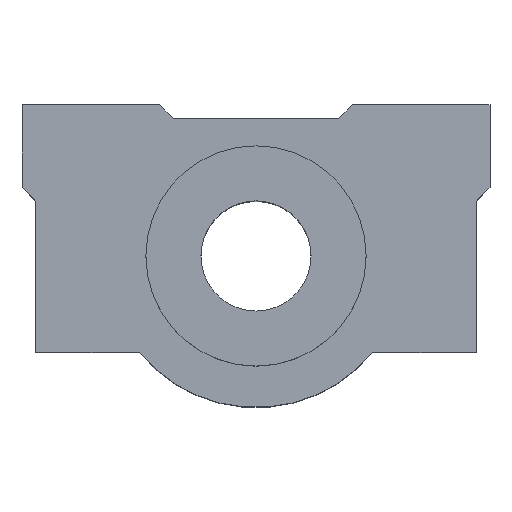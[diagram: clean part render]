
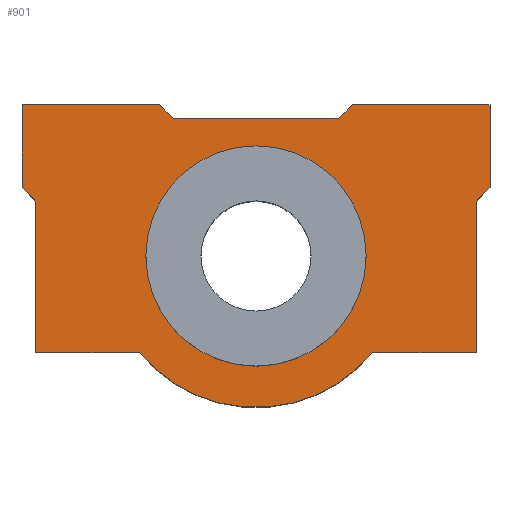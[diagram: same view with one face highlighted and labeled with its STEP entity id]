
A CAD part, top view. The second image highlights one B-rep face of the part: STEP entity #901.
In plain terms, the highlighted planar face has unit normal (0, 0, 1).
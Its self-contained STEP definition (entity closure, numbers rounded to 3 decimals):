
#133=CARTESIAN_POINT('',(-8.709,4.198,19.2));
#134=VERTEX_POINT('',#133);
#143=CARTESIAN_POINT('',(7.291,4.198,19.2));
#144=VERTEX_POINT('',#143);
#145=CARTESIAN_POINT('',(-0.709,4.198,19.2));
#146=DIRECTION('',(0.0,0.0,1.0));
#147=DIRECTION('',(-1.0,0.0,0.0));
#148=AXIS2_PLACEMENT_3D('',#145,#146,#147);
#149=CIRCLE('',#148,8.);
#150=EDGE_CURVE('',#134,#144,#149,.T.);
#522=CARTESIAN_POINT('',(16.291,9.198,19.2));
#523=VERTEX_POINT('',#522);
#524=CARTESIAN_POINT('',(15.291,8.198,19.2));
#525=VERTEX_POINT('',#524);
#526=CARTESIAN_POINT('',(16.291,9.198,19.2));
#527=DIRECTION('',(-0.707,-0.707,0.0));
#528=VECTOR('',#527,1.414);
#529=LINE('',#526,#528);
#530=EDGE_CURVE('',#523,#525,#529,.T.);
#553=CARTESIAN_POINT('',(15.291,-2.802,19.2));
#554=VERTEX_POINT('',#553);
#555=CARTESIAN_POINT('',(15.291,8.198,19.2));
#556=DIRECTION('',(0.0,-1.0,0.0));
#557=VECTOR('',#556,11.);
#558=LINE('',#555,#557);
#559=EDGE_CURVE('',#525,#554,#558,.T.);
#577=CARTESIAN_POINT('',(7.776,-2.802,19.2));
#578=VERTEX_POINT('',#577);
#579=CARTESIAN_POINT('',(15.291,-2.802,19.2));
#580=DIRECTION('',(-1.0,0.0,0.0));
#581=VECTOR('',#580,7.515);
#582=LINE('',#579,#581);
#583=EDGE_CURVE('',#554,#578,#582,.T.);
#605=CARTESIAN_POINT('',(-9.194,-2.802,19.2));
#606=VERTEX_POINT('',#605);
#607=CARTESIAN_POINT('',(-0.709,4.198,19.2));
#608=DIRECTION('',(0.0,0.0,-1.));
#609=DIRECTION('',(0.771,0.636,0.0));
#610=AXIS2_PLACEMENT_3D('',#607,#608,#609);
#611=CIRCLE('',#610,11.0);
#612=EDGE_CURVE('',#578,#606,#611,.T.);
#630=CARTESIAN_POINT('',(-16.709,-2.802,19.2));
#631=VERTEX_POINT('',#630);
#632=CARTESIAN_POINT('',(-9.194,-2.802,19.2));
#633=DIRECTION('',(-1.0,0.0,0.0));
#634=VECTOR('',#633,7.515);
#635=LINE('',#632,#634);
#636=EDGE_CURVE('',#606,#631,#635,.T.);
#658=CARTESIAN_POINT('',(-16.709,8.198,19.2));
#659=VERTEX_POINT('',#658);
#660=CARTESIAN_POINT('',(-16.709,-2.802,19.2));
#661=DIRECTION('',(0.0,1.0,0.0));
#662=VECTOR('',#661,11.);
#663=LINE('',#660,#662);
#664=EDGE_CURVE('',#631,#659,#663,.T.);
#682=CARTESIAN_POINT('',(-17.709,9.198,19.2));
#683=VERTEX_POINT('',#682);
#684=CARTESIAN_POINT('',(-16.709,8.198,19.2));
#685=DIRECTION('',(-0.707,0.707,0.0));
#686=VECTOR('',#685,1.414);
#687=LINE('',#684,#686);
#688=EDGE_CURVE('',#659,#683,#687,.T.);
#706=CARTESIAN_POINT('',(-17.709,15.198,19.2));
#707=VERTEX_POINT('',#706);
#708=CARTESIAN_POINT('',(-17.709,9.198,19.2));
#709=DIRECTION('',(0.0,1.0,0.0));
#710=VECTOR('',#709,6.0);
#711=LINE('',#708,#710);
#712=EDGE_CURVE('',#683,#707,#711,.T.);
#730=CARTESIAN_POINT('',(-7.709,15.198,19.2));
#731=VERTEX_POINT('',#730);
#732=CARTESIAN_POINT('',(-17.709,15.198,19.2));
#733=DIRECTION('',(1.0,0.0,0.0));
#734=VECTOR('',#733,10.);
#735=LINE('',#732,#734);
#736=EDGE_CURVE('',#707,#731,#735,.T.);
#758=CARTESIAN_POINT('',(-6.709,14.198,19.2));
#759=VERTEX_POINT('',#758);
#760=CARTESIAN_POINT('',(-7.709,15.198,19.2));
#761=DIRECTION('',(0.707,-0.707,0.0));
#762=VECTOR('',#761,1.414);
#763=LINE('',#760,#762);
#764=EDGE_CURVE('',#731,#759,#763,.T.);
#782=CARTESIAN_POINT('',(5.291,14.198,19.2));
#783=VERTEX_POINT('',#782);
#784=CARTESIAN_POINT('',(-6.709,14.198,19.2));
#785=DIRECTION('',(1.0,0.0,0.0));
#786=VECTOR('',#785,12.);
#787=LINE('',#784,#786);
#788=EDGE_CURVE('',#759,#783,#787,.T.);
#806=CARTESIAN_POINT('',(6.291,15.198,19.2));
#807=VERTEX_POINT('',#806);
#808=CARTESIAN_POINT('',(5.291,14.198,19.2));
#809=DIRECTION('',(0.707,0.707,0.0));
#810=VECTOR('',#809,1.414);
#811=LINE('',#808,#810);
#812=EDGE_CURVE('',#783,#807,#811,.T.);
#830=CARTESIAN_POINT('',(16.291,15.198,19.2));
#831=VERTEX_POINT('',#830);
#832=CARTESIAN_POINT('',(6.291,15.198,19.2));
#833=DIRECTION('',(1.0,0.0,0.0));
#834=VECTOR('',#833,10.);
#835=LINE('',#832,#834);
#836=EDGE_CURVE('',#807,#831,#835,.T.);
#858=CARTESIAN_POINT('',(16.291,15.198,19.2));
#859=DIRECTION('',(0.0,-1.0,0.0));
#860=VECTOR('',#859,6.);
#861=LINE('',#858,#860);
#862=EDGE_CURVE('',#831,#523,#861,.T.);
#870=CARTESIAN_POINT('',(-0.709,5.694,19.2));
#871=DIRECTION('',(0.0,0.0,1.0));
#872=DIRECTION('',(1.0,0.0,0.0));
#873=AXIS2_PLACEMENT_3D('',#870,#871,#872);
#874=PLANE('',#873);
#875=ORIENTED_EDGE('',*,*,#530,.F.);
#876=ORIENTED_EDGE('',*,*,#862,.F.);
#877=ORIENTED_EDGE('',*,*,#836,.F.);
#878=ORIENTED_EDGE('',*,*,#812,.F.);
#879=ORIENTED_EDGE('',*,*,#788,.F.);
#880=ORIENTED_EDGE('',*,*,#764,.F.);
#881=ORIENTED_EDGE('',*,*,#736,.F.);
#882=ORIENTED_EDGE('',*,*,#712,.F.);
#883=ORIENTED_EDGE('',*,*,#688,.F.);
#884=ORIENTED_EDGE('',*,*,#664,.F.);
#885=ORIENTED_EDGE('',*,*,#636,.F.);
#886=ORIENTED_EDGE('',*,*,#612,.F.);
#887=ORIENTED_EDGE('',*,*,#583,.F.);
#888=ORIENTED_EDGE('',*,*,#559,.F.);
#889=EDGE_LOOP('',(#875,#876,#877,#878,#879,#880,#881,#882,#883,#884,#885,#886,#887,#888));
#890=FACE_OUTER_BOUND('',#889,.T.);
#891=CARTESIAN_POINT('',(-0.709,4.198,19.2));
#892=DIRECTION('',(0.0,0.0,1.0));
#893=DIRECTION('',(-1.0,0.0,0.0));
#894=AXIS2_PLACEMENT_3D('',#891,#892,#893);
#895=CIRCLE('',#894,8.);
#896=EDGE_CURVE('',#144,#134,#895,.T.);
#897=ORIENTED_EDGE('',*,*,#896,.F.);
#898=ORIENTED_EDGE('',*,*,#150,.F.);
#899=EDGE_LOOP('',(#897,#898));
#900=FACE_BOUND('',#899,.T.);
#901=ADVANCED_FACE('',(#890,#900),#874,.T.);
